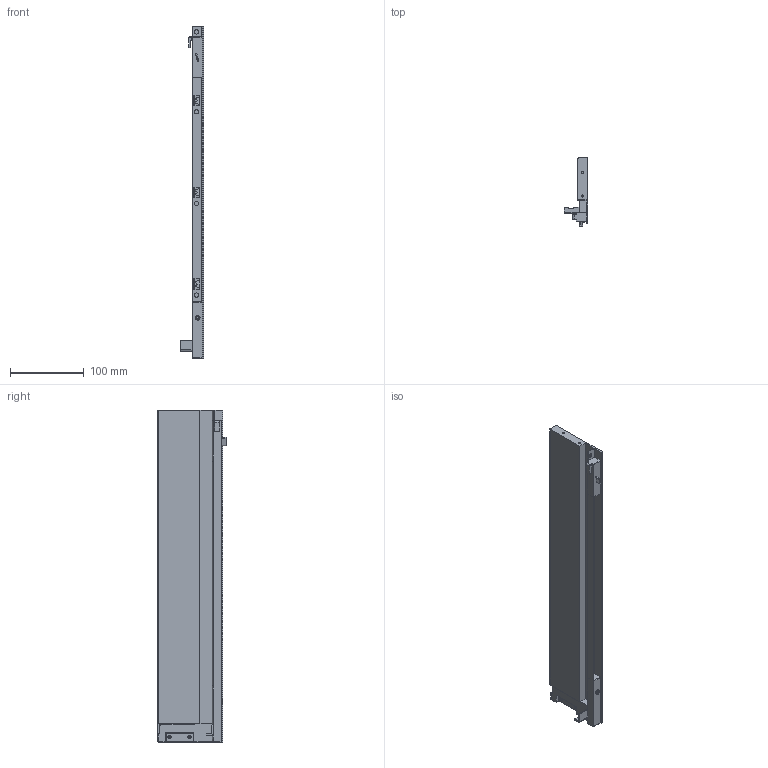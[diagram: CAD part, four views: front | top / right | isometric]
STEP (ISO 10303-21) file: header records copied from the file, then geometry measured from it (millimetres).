
FILE_DESCRIPTION (( 'STEP AP203' ), '1' );
FILE_NAME ('HT114501-R.STEP', '2021-03-16T02:16:42', ( 'Users' ), ( 'Microsoft' ), 'SwSTEP 2.0', 'SolidWorks 2018', '' );
FILE_SCHEMA (( 'CONFIG_CONTROL_DESIGN' ));
Length unit declared in the file: millimetre
Products named in the file (1): HT114501-R
Bounding box: 31.3 x 93 x 449 mm (x, y, z)
Volume: 387665.9 mm3; surface area: 113547.7 mm2
Topology: 1 solids, 8 shells, 402 faces, 1019 edges, 633 vertices
Faces by surface type: plane 199, cylinder 139, torus 29, bspline 23, cone 6, sphere 6
Entity records: 12556 total; most frequent: CARTESIAN_POINT 2954, ORIENTED_EDGE 2020, DIRECTION 1947, EDGE_CURVE 1010, AXIS2_PLACEMENT_3D 660, VERTEX_POINT 633, VECTOR 627, LINE 627
